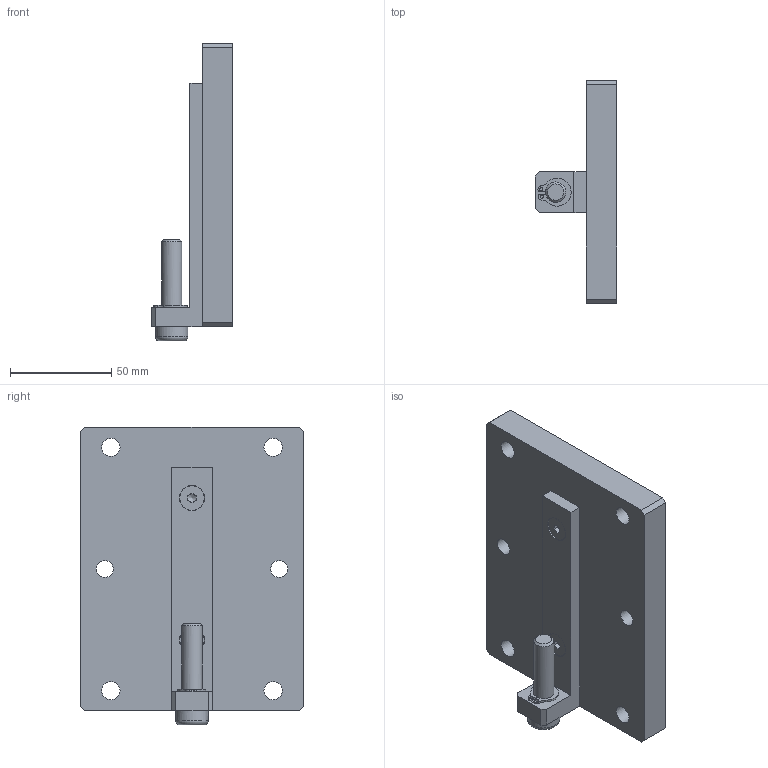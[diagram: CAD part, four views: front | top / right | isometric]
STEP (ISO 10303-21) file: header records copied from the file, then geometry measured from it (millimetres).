
FILE_DESCRIPTION((''),'2;1');
FILE_NAME('C:\Test\stp\4000072.stp','2006-04-12T15:42:30',('is'),(''),'Autodesk Inventor 10','Autodesk Inventor 10','');
FILE_SCHEMA(('AUTOMOTIVE_DESIGN { 1 0 10303 214 1 1 1 1 }'));
Length unit declared in the file: millimetre
Products named in the file (1): 4000072
Bounding box: 40 x 110 x 146.9 mm (x, y, z)
Volume: 246758.7 mm3; surface area: 45562.7 mm2
Topology: 1 solids, 3 shells, 101 faces, 251 edges, 165 vertices
Faces by surface type: plane 57, cylinder 19, bspline 17, cone 7, torus 1
Full cylindrical faces by diameter (mm): 1.525 x1, 1.617 x1, 6 x2, 9.6 x1, 10 x2, 12 x2, 16 x4
Entity records: 2919 total; most frequent: CARTESIAN_POINT 746, DIRECTION 430, ORIENTED_EDGE 394, EDGE_CURVE 197, EDGE_LOOP 166, AXIS2_PLACEMENT_3D 160, VERTEX_POINT 148, VECTOR 110
